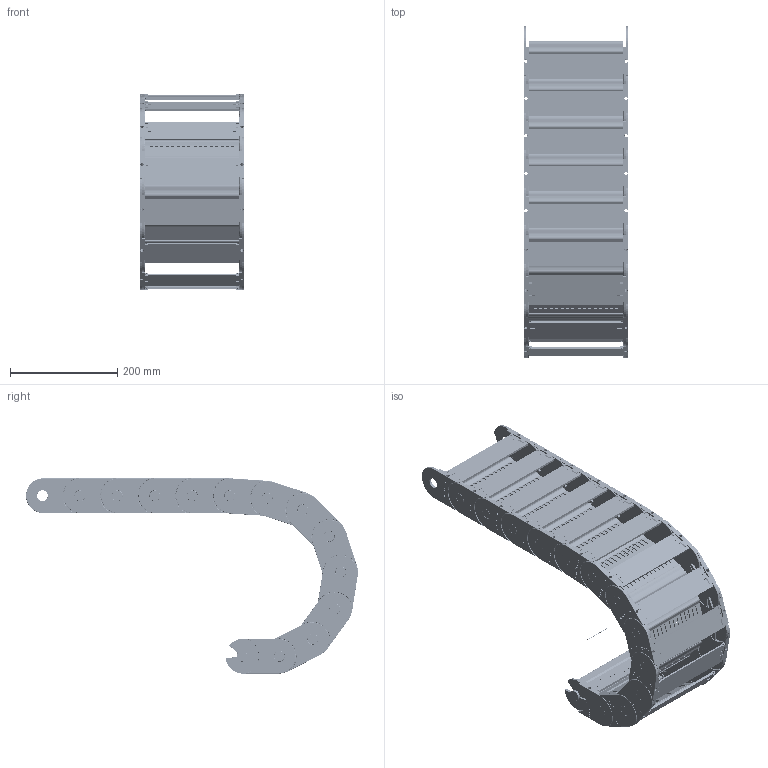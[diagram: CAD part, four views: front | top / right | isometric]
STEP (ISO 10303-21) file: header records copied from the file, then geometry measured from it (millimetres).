
FILE_DESCRIPTION((''),'2;1');
FILE_NAME('C:\Uebbing\PARAMETERKETTEN\KOLIBRI\Kol_65_195_1\Kol_65_195_1_R150.stp','2012-03-06T09:31:44',('Uebbing'),(''),'Autodesk Inventor 10','Autodesk Inventor 10','');
FILE_SCHEMA(('AUTOMOTIVE_DESIGN { 1 0 10303 214 1 1 1 1 }'));
Length unit declared in the file: millimetre
Products named in the file (5): KOLIBRI 65_195_1_PARAMETRISCH; Achse; Kol_65_195_1; Kol_65_195_5 Lasche; Kol_65_195_1 Klappsteg
Assembly tree (16 placements, depth 3):
  KOLIBRI 65_195_1_PARAMETRISCH
    Achse
    Kol_65_195_1  x13
      Kol_65_195_5 Lasche
      Kol_65_195_1 Klappsteg
Bounding box: 195 x 620.06 x 365 mm (x, y, z)
Volume: 1581627.6 mm3; surface area: 1133960.3 mm2
Topology: 27 solids, 27 shells, 8700 faces, 23885 edges, 15343 vertices
Faces by surface type: plane 3655, bspline 3289, cylinder 1392, torus 286, cone 52, sphere 26
Full cylindrical faces by diameter (mm): 1 x1, 2.514 x13, 4 x39, 4.414 x13, 6 x13, 20 x26
Entity records: 22807 total; most frequent: CARTESIAN_POINT 6255, ORIENTED_EDGE 3608, DIRECTION 3045, EDGE_CURVE 1804, VECTOR 1343, LINE 1343, VERTEX_POINT 1171, AXIS2_PLACEMENT_3D 851
